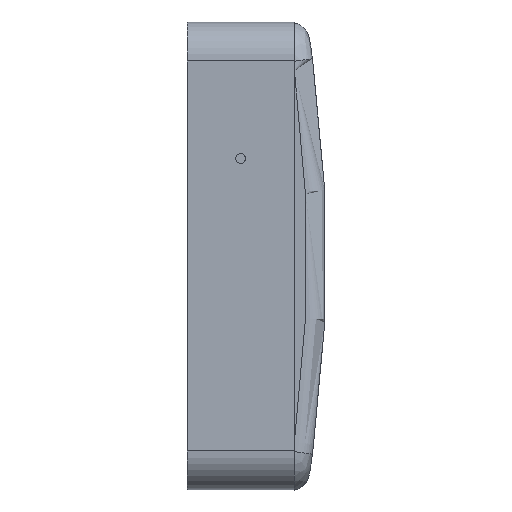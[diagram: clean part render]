
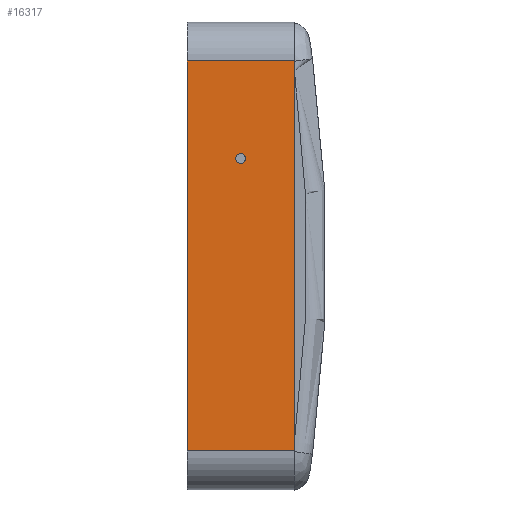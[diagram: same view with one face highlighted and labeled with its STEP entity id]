
A CAD part, left-side view. The second image highlights one B-rep face of the part: STEP entity #16317.
In plain terms, the highlighted planar face has unit normal (-1, 0, 0).
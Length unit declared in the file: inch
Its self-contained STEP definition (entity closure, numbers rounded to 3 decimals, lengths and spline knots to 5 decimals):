
#246 = DIRECTION ( 'NONE',  ( 0., 0., 1. ) ) ;
#419 = CARTESIAN_POINT ( 'NONE',  ( -3.25, 0.0625, -1.25 ) ) ;
#796 = EDGE_LOOP ( 'NONE', ( #1427, #8837, #7231, #10071 ) ) ;
#826 = VERTEX_POINT ( 'NONE', #12793 ) ;
#1427 = ORIENTED_EDGE ( 'NONE', *, *, #4137, .T. ) ;
#1534 = FACE_BOUND ( 'NONE', #12553, .T. ) ;
#1711 = DIRECTION ( 'NONE',  ( 1., 0., 0. ) ) ;
#1959 = CARTESIAN_POINT ( 'NONE',  ( -3.25, 0.3428, -0.625 ) ) ;
#2193 = CARTESIAN_POINT ( 'NONE',  ( -3.25, 0.6875, 0. ) ) ;
#2436 = VERTEX_POINT ( 'NONE', #7078 ) ;
#2444 = VERTEX_POINT ( 'NONE', #2911 ) ;
#2476 = CIRCLE ( 'NONE', #3862, 0.03125 ) ;
#2670 = EDGE_CURVE ( 'NONE', #2436, #15333, #2476, .T. ) ;
#2679 = CARTESIAN_POINT ( 'NONE',  ( -3.25, 0.3428, -0.625 ) ) ;
#2859 = LINE ( 'NONE', #14675, #15426 ) ;
#2864 = CARTESIAN_POINT ( 'NONE',  ( -3.25, 0.3428, -0.65625 ) ) ;
#2911 = CARTESIAN_POINT ( 'NONE',  ( -3.25, 0.6875, -1.25 ) ) ;
#3120 = DIRECTION ( 'NONE',  ( 0., -1., 0. ) ) ;
#3528 = AXIS2_PLACEMENT_3D ( 'NONE', #4308, #1711, #7015 ) ;
#3727 = DIRECTION ( 'NONE',  ( 0., 0., 1. ) ) ;
#3862 = AXIS2_PLACEMENT_3D ( 'NONE', #1959, #6318, #14204 ) ;
#4137 = EDGE_CURVE ( 'NONE', #826, #5515, #4457, .T. ) ;
#4308 = CARTESIAN_POINT ( 'NONE',  ( -3.25, 0.0625, 1.5 ) ) ;
#4457 = LINE ( 'NONE', #8543, #11622 ) ;
#5515 = VERTEX_POINT ( 'NONE', #10744 ) ;
#5530 = EDGE_CURVE ( 'NONE', #16850, #826, #2859, .T. ) ;
#6318 = DIRECTION ( 'NONE',  ( -1., 0., 0. ) ) ;
#6349 = DIRECTION ( 'NONE',  ( -1., 0., 0. ) ) ;
#7015 = DIRECTION ( 'NONE',  ( 0., 0., -1. ) ) ;
#7078 = CARTESIAN_POINT ( 'NONE',  ( -3.25, 0.3428, -0.59375 ) ) ;
#7231 = ORIENTED_EDGE ( 'NONE', *, *, #15409, .T. ) ;
#7594 = ORIENTED_EDGE ( 'NONE', *, *, #2670, .F. ) ;
#8301 = AXIS2_PLACEMENT_3D ( 'NONE', #2679, #6349, #3727 ) ;
#8543 = CARTESIAN_POINT ( 'NONE',  ( -3.25, 0.0625, 1.25 ) ) ;
#8783 = VECTOR ( 'NONE', #8789, 39.37008 ) ;
#8789 = DIRECTION ( 'NONE',  ( 0., 0., 1. ) ) ;
#8837 = ORIENTED_EDGE ( 'NONE', *, *, #13883, .F. ) ;
#9116 = EDGE_CURVE ( 'NONE', #15333, #2436, #14407, .T. ) ;
#9264 = PLANE ( 'NONE',  #3528 ) ;
#9511 = FACE_OUTER_BOUND ( 'NONE', #796, .T. ) ;
#10071 = ORIENTED_EDGE ( 'NONE', *, *, #5530, .T. ) ;
#10744 = CARTESIAN_POINT ( 'NONE',  ( -3.25, 0.6875, 1.25 ) ) ;
#10956 = DIRECTION ( 'NONE',  ( 0., 1., 0. ) ) ;
#11622 = VECTOR ( 'NONE', #10956, 39.37008 ) ;
#12322 = LINE ( 'NONE', #419, #16517 ) ;
#12366 = CARTESIAN_POINT ( 'NONE',  ( -3.25, 0., -1.25 ) ) ;
#12553 = EDGE_LOOP ( 'NONE', ( #7594, #14146 ) ) ;
#12793 = CARTESIAN_POINT ( 'NONE',  ( -3.25, 0., 1.25 ) ) ;
#13883 = EDGE_CURVE ( 'NONE', #2444, #5515, #15112, .T. ) ;
#14146 = ORIENTED_EDGE ( 'NONE', *, *, #9116, .F. ) ;
#14204 = DIRECTION ( 'NONE',  ( 0., 0., 1. ) ) ;
#14407 = CIRCLE ( 'NONE', #8301, 0.03125 ) ;
#14675 = CARTESIAN_POINT ( 'NONE',  ( -3.25, 0., 1.5 ) ) ;
#15112 = LINE ( 'NONE', #2193, #8783 ) ;
#15333 = VERTEX_POINT ( 'NONE', #2864 ) ;
#15409 = EDGE_CURVE ( 'NONE', #2444, #16850, #12322, .T. ) ;
#15426 = VECTOR ( 'NONE', #246, 39.37008 ) ;
#16317 = ADVANCED_FACE ( 'NONE', ( #9511, #1534 ), #9264, .F. ) ;
#16517 = VECTOR ( 'NONE', #3120, 39.37008 ) ;
#16850 = VERTEX_POINT ( 'NONE', #12366 ) ;
